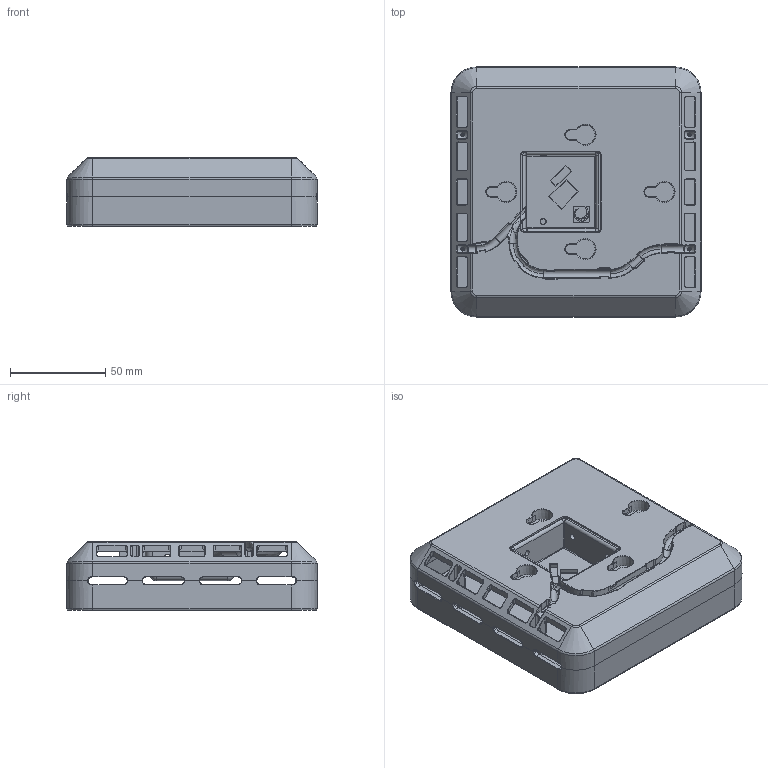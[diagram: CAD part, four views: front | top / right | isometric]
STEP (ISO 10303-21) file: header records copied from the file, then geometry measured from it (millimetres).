
FILE_DESCRIPTION(/* description */ (''),/* implementation_level */ '2;1');
FILE_NAME(/* name */ 'Assembly_August 11, 2022',/* time_stamp */ '2022-08-11T22:51:31+08:00',/* author */ (''),/* organization */ (''),/* preprocessor_version */ 'ST-DEVELOPER v9',/* originating_system */ 'UGS - NX 4.0',/* authorisation */ '');
FILE_SCHEMA (('AUTOMOTIVE_DESIGN { 1 0 10303 214 1 1 1 1 }'));
Products named in the file (1): Rico9F74gg7o
Bounding box: 131.2 x 131.2 x 36.2 mm (x, y, z)
Volume: 134862.4 mm3; surface area: 109308.5 mm2
Topology: 3 solids, 3 shells, 1669 faces, 4386 edges, 2696 vertices
Faces by surface type: plane 583, cylinder 574, bspline 319, torus 92, cone 68, sphere 32, extrusion 1
Full cylindrical faces by diameter (mm): 1.36 x4, 1.44 x6, 1.7 x8, 2.3 x4, 3.1 x5, 5.1 x4
Entity records: 73562 total; most frequent: CARTESIAN_POINT 24514, ORIENTED_EDGE 8510, DIRECTION 7689, EDGE_CURVE 4255, AXIS2_PLACEMENT_3D 2855, VERTEX_POINT 2662, VECTOR 1979, LINE 1978
